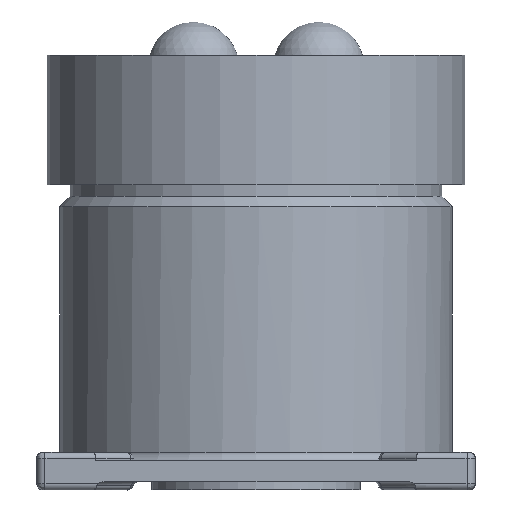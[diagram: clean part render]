
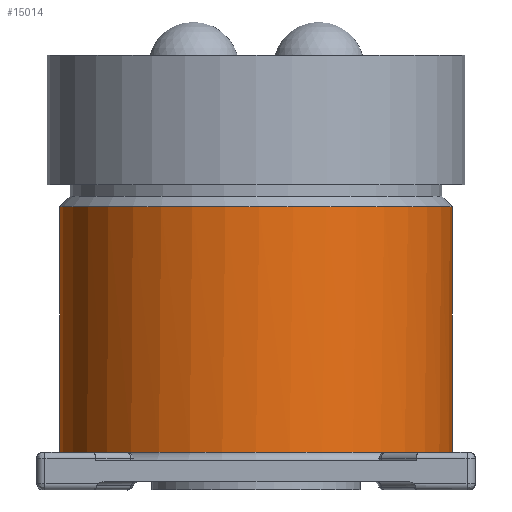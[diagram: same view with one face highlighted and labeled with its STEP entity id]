
A CAD part, left-side view. The second image highlights one B-rep face of the part: STEP entity #15014.
In plain terms, the highlighted cylindrical face has radius 47 mm (diameter 94 mm), a full revolution.
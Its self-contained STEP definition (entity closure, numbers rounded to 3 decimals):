
#488=ELLIPSE('',#15997,850.633,47.);
#489=ELLIPSE('',#16004,850.633,47.);
#515=B_SPLINE_CURVE_WITH_KNOTS('',3,(#20617,#20618,#20619,#20620,#20621,
#20622,#20623,#20624),.UNSPECIFIED.,.F.,.F.,(4,1,1,1,1,4),(-3.408,
-2.435,-1.948,-0.974,-0.487,
0.),.UNSPECIFIED.);
#516=B_SPLINE_CURVE_WITH_KNOTS('',3,(#20671,#20672,#20673,#20674,#20675,
#20676,#20677,#20678),.UNSPECIFIED.,.F.,.F.,(4,1,1,1,1,4),(-3.408,
-2.921,-2.435,-1.948,-0.974,
0.),.UNSPECIFIED.);
#3889=CYLINDRICAL_SURFACE('',#16076,47.);
#3946=FACE_BOUND('',#5113,.T.);
#4206=FACE_OUTER_BOUND('',#5112,.T.);
#5112=EDGE_LOOP('',(#10694,#10695,#10696,#10697,#10698,#10699));
#5113=EDGE_LOOP('',(#10700));
#6056=CIRCLE('',#16001,47.);
#6091=CIRCLE('',#16075,47.);
#6092=CIRCLE('',#16077,47.);
#6366=VERTEX_POINT('',#20570);
#6367=VERTEX_POINT('',#20572);
#6368=VERTEX_POINT('',#20615);
#6369=VERTEX_POINT('',#20626);
#6370=VERTEX_POINT('',#20669);
#6371=VERTEX_POINT('',#20695);
#6392=VERTEX_POINT('',#20898);
#7990=EDGE_CURVE('',#6367,#6366,#488,.T.);
#7992=EDGE_CURVE('',#6368,#6367,#515,.T.);
#7994=EDGE_CURVE('',#6369,#6368,#6056,.T.);
#7996=EDGE_CURVE('',#6370,#6369,#516,.T.);
#7998=EDGE_CURVE('',#6371,#6370,#489,.T.);
#8049=EDGE_CURVE('',#6366,#6371,#6091,.T.);
#8050=EDGE_CURVE('',#6392,#6392,#6092,.T.);
#10694=ORIENTED_EDGE('',*,*,#7998,.F.);
#10695=ORIENTED_EDGE('',*,*,#8049,.F.);
#10696=ORIENTED_EDGE('',*,*,#7990,.F.);
#10697=ORIENTED_EDGE('',*,*,#7992,.F.);
#10698=ORIENTED_EDGE('',*,*,#7994,.F.);
#10699=ORIENTED_EDGE('',*,*,#7996,.F.);
#10700=ORIENTED_EDGE('',*,*,#8050,.F.);
#15014=ADVANCED_FACE('',(#4206,#3946),#3889,.T.);
#15997=AXIS2_PLACEMENT_3D('',#20574,#17192,#17193);
#16001=AXIS2_PLACEMENT_3D('',#20628,#17200,#17201);
#16004=AXIS2_PLACEMENT_3D('',#20697,#17206,#17207);
#16075=AXIS2_PLACEMENT_3D('',#20896,#17364,#17365);
#16076=AXIS2_PLACEMENT_3D('',#20897,#17366,#17367);
#16077=AXIS2_PLACEMENT_3D('',#20899,#17368,#17369);
#17192=DIRECTION('center_axis',(0.,0.998,-0.055));
#17193=DIRECTION('ref_axis',(0.,-0.055,-0.998));
#17200=DIRECTION('center_axis',(0.,0.,-1.));
#17201=DIRECTION('ref_axis',(1.,0.,0.));
#17206=DIRECTION('center_axis',(0.,-0.998,-0.055));
#17207=DIRECTION('ref_axis',(0.,0.055,-0.998));
#17364=DIRECTION('center_axis',(0.,0.,-1.));
#17365=DIRECTION('ref_axis',(-1.,0.,0.));
#17366=DIRECTION('center_axis',(0.,0.,1.));
#17367=DIRECTION('ref_axis',(-1.,0.,0.));
#17368=DIRECTION('center_axis',(0.,0.,1.));
#17369=DIRECTION('ref_axis',(-1.,0.,0.));
#20570=CARTESIAN_POINT('',(22.36,-41.34,7.));
#20572=CARTESIAN_POINT('',(24.577,-40.062,30.094));
#20574=CARTESIAN_POINT('Origin',(0.,0.,754.058));
#20615=CARTESIAN_POINT('',(41.603,-21.868,48.));
#20617=CARTESIAN_POINT('Ctrl Pts',(41.603,-21.868,48.));
#20618=CARTESIAN_POINT('Ctrl Pts',(40.154,-24.624,48.));
#20619=CARTESIAN_POINT('Ctrl Pts',(37.565,-28.509,47.031));
#20620=CARTESIAN_POINT('Ctrl Pts',(32.833,-33.833,43.718));
#20621=CARTESIAN_POINT('Ctrl Pts',(28.91,-37.171,39.906));
#20622=CARTESIAN_POINT('Ctrl Pts',(25.669,-39.394,34.811));
#20623=CARTESIAN_POINT('Ctrl Pts',(24.722,-39.973,31.708));
#20624=CARTESIAN_POINT('Ctrl Pts',(24.577,-40.062,30.094));
#20626=CARTESIAN_POINT('',(41.603,21.868,48.));
#20628=CARTESIAN_POINT('Origin',(0.,0.,48.));
#20669=CARTESIAN_POINT('',(24.577,40.062,30.094));
#20671=CARTESIAN_POINT('Ctrl Pts',(24.577,40.062,30.094));
#20672=CARTESIAN_POINT('Ctrl Pts',(24.722,39.973,31.708));
#20673=CARTESIAN_POINT('Ctrl Pts',(25.672,39.393,34.807));
#20674=CARTESIAN_POINT('Ctrl Pts',(28.094,37.728,38.639));
#20675=CARTESIAN_POINT('Ctrl Pts',(31.811,34.755,42.854));
#20676=CARTESIAN_POINT('Ctrl Pts',(36.712,29.799,46.695));
#20677=CARTESIAN_POINT('Ctrl Pts',(40.154,24.624,48.));
#20678=CARTESIAN_POINT('Ctrl Pts',(41.603,21.868,48.));
#20695=CARTESIAN_POINT('',(22.36,41.34,7.));
#20697=CARTESIAN_POINT('Origin',(0.,0.,754.058));
#20896=CARTESIAN_POINT('Origin',(0.,0.,7.));
#20897=CARTESIAN_POINT('Origin',(0.,0.,5.));
#20898=CARTESIAN_POINT('',(47.,0.,65.8));
#20899=CARTESIAN_POINT('Origin',(0.,0.,65.8));
